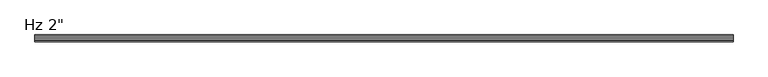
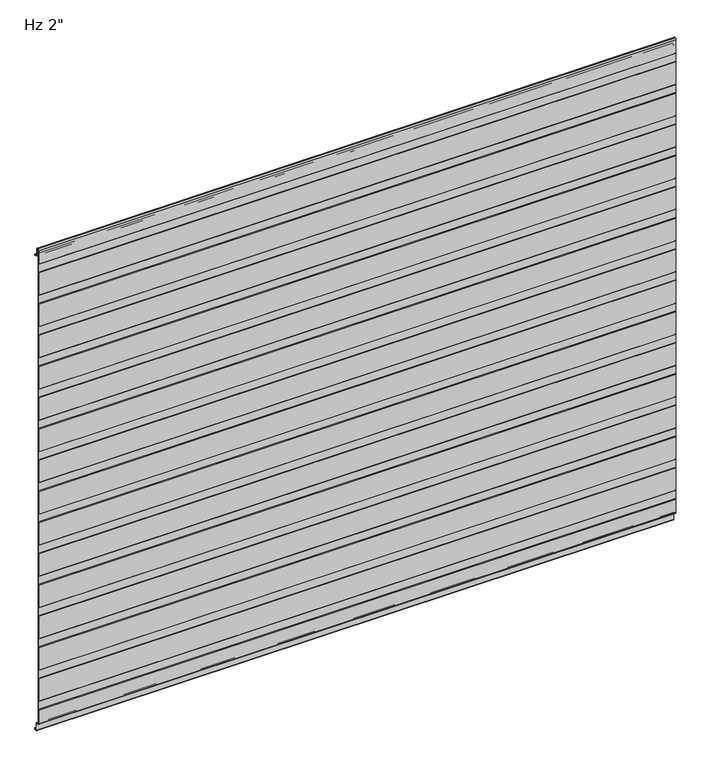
"""IFC4 building model written with IfcOpenShell, lengths in millimetres: plate geometry."""

from ifc_helpers import new_model, si_unit, frame, origin, place, context, project, spatial, polyline, circle_curve, source, transform, mapped, element, save
from ifc_brep_helpers import plane_surface, cylinder_surface, revolved_surface, advanced_brep


def plate_084fd8b3(model_context):
    return source(origin(), model_context, "Body", "AdvancedBrep", [
        advanced_brep(
        [(-730.0, -50.8, 966.9508592), (-730.0, -50.8, 1021.5303137), (-730.0, -49.6088405, 1022.6028385), (-730.0, -49.6088405, 1041.5009546), (-730.0, -50.8, 1042.5734794), (-730.0, -50.8, 1097.152934), (-730.0, -49.6088405, 1098.2254588), (-730.0, -49.6088405, 1117.1235749), (-730.0, -50.7999956, 1118.1960958), (-730.0, -50.7999956, 1150.8100652), (-730.0, -47.8227271, 1153.7873337), (-730.0, -46.7806285, 1153.7873337), (-730.0, -43.80336, 1150.8100652), (-730.0, -43.80336, 1136.6216801), (-730.0, -42.2154834, 1135.0338036), (-730.0, -37.8950653, 1135.0338036), (-730.0, -36.3065979, 1133.3929042), (-730.0, -36.3065979, 1131.0482432), (-730.0, -37.3060718, 1131.0482432), (-730.0, -37.3060718, 1133.4253365), (-730.0, -37.8950653, 1134.0338037), (-730.0, -42.2154834, 1134.0338037), (-730.0, -44.80336, 1136.6216801), (-730.0, -44.80336, 1150.8100652), (-730.0, -46.7806285, 1152.7873337), (-730.0, -47.8227271, 1152.7873337), (-730.0, -49.7999956, 1150.8100652), (-730.0, -49.7999956, 1118.6385351), (-730.0, -48.6088405, 1117.5660142), (-730.0, -48.6088405, 1097.7830195), (-730.0, -49.8, 1096.7104947), (-730.0, -49.8, 1043.0159187), (-730.0, -48.6088405, 1041.9433939), (-730.0, -48.6088405, 1022.1603992), (-730.0, -49.8, 1021.0878744), (-730.0, -49.8, 967.3932985), (-730.0, -48.6088405, 966.3207736), (-730.0, -48.6088405, 946.537779), (-730.0, -49.8, 945.4652541), (-730.0, -49.8, 891.7706782), (-730.0, -48.6088405, 890.6981534), (-730.0, -48.6088405, 870.9151587), (-730.0, -49.8, 869.8426339), (-730.0, -49.8, 816.148058), (-730.0, -48.6088405, 815.0755331), (-730.0, -48.6088405, 795.2925384), (-730.0, -49.8, 794.2200136), (-730.0, -49.8, 740.5254377), (-730.0, -48.6088405, 739.4529129), (-730.0, -48.6088405, 719.6699182), (-730.0, -49.8, 718.5973933), (-730.0, -49.8, 664.9028174), (-730.0, -48.6088405, 663.8302926), (-730.0, -48.6088405, 644.0472979), (-730.0, -49.8, 642.9747731), (-730.0, -49.8, 589.2801972), (-730.0, -48.6088405, 588.2076723), (-730.0, -48.6088405, 568.4246776), (-730.0, -49.8, 567.3521528), (-730.0, -49.8, 513.6575769), (-730.0, -48.6088405, 512.5850521), (-730.0, -48.6088405, 492.8020574), (-730.0, -49.8, 491.7295325), (-730.0, -49.8, 438.0349566), (-730.0, -48.6088405, 436.9624318), (-730.0, -48.6088405, 417.1794371), (-730.0, -49.8, 416.1069123), (-730.0, -49.8, 362.4123364), (-730.0, -48.6088405, 361.3398115), (-730.0, -48.6088405, 341.5568169), (-730.0, -49.8, 340.484292), (-730.0, -49.8, 286.7897161), (-730.0, -48.6088405, 285.7171913), (-730.0, -48.6088405, 265.9341966), (-730.0, -49.8, 264.8616718), (-730.0, -49.8, 211.1670958), (-730.0, -48.6088405, 210.094571), (-730.0, -48.6088405, 190.3115763), (-730.0, -49.8, 189.2390515), (-730.0, -49.8, 135.5444756), (-730.0, -48.6088405, 134.4719507), (-730.0, -48.6088405, 114.6889561), (-730.0, -49.8, 113.6164312), (-730.0, -49.8, 59.9218553), (-730.0, -48.6088405, 58.8493305), (-730.0, -48.6088405, 39.0663358), (-730.0, -49.8, 37.993811), (-730.0, -49.8, 5.82722), (-730.0, -47.8227096, 3.8499526), (-730.0, -45.5308258, 3.8499526), (-730.0, -41.5535573, -0.1273159), (-730.0, -41.5535573, -15.7237419), (-730.0, -40.9656807, -16.3116185), (-730.0, -37.894132, -16.3116185), (-730.0, -37.3062555, -15.7237419), (-730.0, -37.3062555, -13.3687064), (-730.0, -36.3062555, -13.3687064), (-730.0, -36.3062555, -15.7237419), (-730.0, -37.894132, -17.3116185), (-730.0, -40.9656807, -17.3116185), (-730.0, -42.5535573, -15.7237419), (-730.0, -42.5535573, -0.1273159), (-730.0, -45.5308258, 2.8499526), (-730.0, -47.8227096, 2.8499526), (-730.0, -50.7999782, 5.8272193), (-730.0, -50.8, 38.4362503), (-730.0, -49.6088405, 39.5087751), (-730.0, -49.6088405, 58.4068912), (-730.0, -50.8, 59.479416), (-730.0, -50.8, 114.0588705), (-730.0, -49.6088405, 115.1313954), (-730.0, -49.6088405, 134.0295114), (-730.0, -50.8, 135.1020363), (-730.0, -50.8, 189.6814908), (-730.0, -49.6088405, 190.7540156), (-730.0, -49.6088405, 209.6521317), (-730.0, -50.8, 210.7246565), (-730.0, -50.8, 265.3041111), (-730.0, -49.6088405, 266.3766359), (-730.0, -49.6088405, 285.274752), (-730.0, -50.8, 286.3472768), (-730.0, -50.8, 340.9267313), (-730.0, -49.6088405, 341.9992562), (-730.0, -49.6088405, 360.8973722), (-730.0, -50.8, 361.9698971), (-730.0, -50.8, 416.5493516), (-730.0, -49.6088405, 417.6218764), (-730.0, -49.6088405, 436.5199925), (-730.0, -50.8, 437.5925173), (-730.0, -50.8, 492.1719719), (-730.0, -49.6088405, 493.2444967), (-730.0, -49.6088405, 512.1426127), (-730.0, -50.8, 513.2151376), (-730.0, -50.8, 567.7945921), (-730.0, -49.6088405, 568.867117), (-730.0, -49.6088405, 587.765233), (-730.0, -50.8, 588.8377578), (-730.0, -50.8, 643.4172124), (-730.0, -49.6088405, 644.4897372), (-730.0, -49.6088405, 663.3878533), (-730.0, -50.8, 664.4603781), (-730.0, -50.8, 719.0398327), (-730.0, -49.6088405, 720.1123575), (-730.0, -49.6088405, 739.0104735), (-730.0, -50.8, 740.0829984), (-730.0, -50.8, 794.6624529), (-730.0, -49.6088405, 795.7349778), (-730.0, -49.6088405, 814.6330938), (-730.0, -50.8, 815.7056186), (-730.0, -50.8, 870.2850732), (-730.0, -49.6088405, 871.357598), (-730.0, -49.6088405, 890.2557141), (-730.0, -50.8, 891.3282389), (-730.0, -50.8, 945.9076934), (-730.0, -49.6088405, 946.9802183), (-730.0, -49.6088405, 965.8783343), (730.0, -50.8, 966.9508592), (730.0, -49.6088405, 965.8783343), (730.0, -49.6088405, 946.9802183), (730.0, -50.8, 945.9076934), (730.0, -50.8, 891.3282389), (730.0, -49.6088405, 890.2557141), (730.0, -49.6088405, 871.357598), (730.0, -50.8, 870.2850732), (730.0, -50.8, 815.7056186), (730.0, -49.6088405, 814.6330938), (730.0, -49.6088405, 795.7349778), (730.0, -50.8, 794.6624529), (730.0, -50.8, 740.0829984), (730.0, -49.6088405, 739.0104735), (730.0, -49.6088405, 720.1123575), (730.0, -50.8, 719.0398327), (730.0, -50.8, 664.4603781), (730.0, -49.6088405, 663.3878533), (730.0, -49.6088405, 644.4897372), (730.0, -50.8, 643.4172124), (730.0, -50.8, 588.8377578), (730.0, -49.6088405, 587.765233), (730.0, -49.6088405, 568.867117), (730.0, -50.8, 567.7945921), (730.0, -50.8, 513.2151376), (730.0, -49.6088405, 512.1426127), (730.0, -49.6088405, 493.2444967), (730.0, -50.8, 492.1719719), (730.0, -50.8, 437.5925173), (730.0, -49.6088405, 436.5199925), (730.0, -49.6088405, 417.6218764), (730.0, -50.8, 416.5493516), (730.0, -50.8, 361.9698971), (730.0, -49.6088405, 360.8973722), (730.0, -49.6088405, 341.9992562), (730.0, -50.8, 340.9267313), (730.0, -50.8, 286.3472768), (730.0, -49.6088405, 285.274752), (730.0, -49.6088405, 266.3766359), (730.0, -50.8, 265.3041111), (730.0, -50.8, 210.7246565), (730.0, -49.6088405, 209.6521317), (730.0, -49.6088405, 190.7540156), (730.0, -50.8, 189.6814908), (730.0, -50.8, 135.1020363), (730.0, -49.6088405, 134.0295114), (730.0, -49.6088405, 115.1313954), (730.0, -50.8, 114.0588705), (730.0, -50.8, 59.479416), (730.0, -49.6088405, 58.4068912), (730.0, -49.6088405, 39.5087751), (730.0, -50.8, 38.4362503), (730.0, -50.8, 5.8272193), (730.0, -47.8227096, 2.8499526), (730.0, -45.5308258, 2.8499526), (730.0, -42.5535573, -0.1273159), (730.0, -42.5535573, -15.7237419), (730.0, -40.9656807, -17.3116185), (730.0, -37.894132, -17.3116185), (730.0, -36.3062555, -15.7237419), (730.0, -36.3062555, -13.3687064), (730.0, -37.3062555, -13.3687064), (730.0, -37.3062555, -15.7237419), (730.0, -37.894132, -16.3116185), (730.0, -40.9656807, -16.3116185), (730.0, -41.5535573, -15.7237419), (730.0, -41.5535573, -0.1273159), (730.0, -45.5308258, 3.8499526), (730.0, -47.8227096, 3.8499526), (730.0, -49.7999782, 5.82722), (730.0, -49.8, 37.993811), (730.0, -48.6088405, 39.0663358), (730.0, -48.6088405, 58.8493305), (730.0, -49.8, 59.9218553), (730.0, -49.8, 113.6164312), (730.0, -48.6088405, 114.6889561), (730.0, -48.6088405, 134.4719507), (730.0, -49.8, 135.5444756), (730.0, -49.8, 189.2390515), (730.0, -48.6088405, 190.3115763), (730.0, -48.6088405, 210.094571), (730.0, -49.8, 211.1670958), (730.0, -49.8, 264.8616718), (730.0, -48.6088405, 265.9341966), (730.0, -48.6088405, 285.7171913), (730.0, -49.8, 286.7897161), (730.0, -49.8, 340.484292), (730.0, -48.6088405, 341.5568169), (730.0, -48.6088405, 361.3398115), (730.0, -49.8, 362.4123364), (730.0, -49.8, 416.1069123), (730.0, -48.6088405, 417.1794371), (730.0, -48.6088405, 436.9624318), (730.0, -49.8, 438.0349566), (730.0, -49.8, 491.7295325), (730.0, -48.6088405, 492.8020574), (730.0, -48.6088405, 512.5850521), (730.0, -49.8, 513.6575769), (730.0, -49.8, 567.3521528), (730.0, -48.6088405, 568.4246776), (730.0, -48.6088405, 588.2076723), (730.0, -49.8, 589.2801972), (730.0, -49.8, 642.9747731), (730.0, -48.6088405, 644.0472979), (730.0, -48.6088405, 663.8302926), (730.0, -49.8, 664.9028174), (730.0, -49.8, 718.5973933), (730.0, -48.6088405, 719.6699182), (730.0, -48.6088405, 739.4529129), (730.0, -49.8, 740.5254377), (730.0, -49.8, 794.2200136), (730.0, -48.6088405, 795.2925384), (730.0, -48.6088405, 815.0755331), (730.0, -49.8, 816.148058), (730.0, -49.8, 869.8426339), (730.0, -48.6088405, 870.9151587), (730.0, -48.6088405, 890.6981534), (730.0, -49.8, 891.7706782), (730.0, -49.8, 945.4652541), (730.0, -48.6088405, 946.537779), (730.0, -48.6088405, 966.3207736), (730.0, -49.8, 967.3932985), (730.0, -49.8, 1021.0878744), (730.0, -48.6088405, 1022.1603992), (730.0, -48.6088405, 1041.9433939), (730.0, -49.8, 1043.0159187), (730.0, -49.8, 1096.7104947), (730.0, -48.6088405, 1097.7830195), (730.0, -48.6088405, 1117.5660142), (730.0, -49.7999956, 1118.6385351), (730.0, -49.7999956, 1150.8100652), (730.0, -47.8227271, 1152.7873337), (730.0, -46.7806285, 1152.7873337), (730.0, -44.80336, 1150.8100652), (730.0, -44.80336, 1136.6216801), (730.0, -42.2154834, 1134.0338036), (730.0, -37.8950653, 1134.0338037), (730.0, -37.3060718, 1133.4253365), (730.0, -37.3060718, 1131.0482432), (730.0, -36.3065979, 1131.0482432), (730.0, -36.3065979, 1133.3929042), (730.0, -37.8950653, 1135.0338037), (730.0, -42.2154834, 1135.0338036), (730.0, -43.80336, 1136.6216801), (730.0, -43.80336, 1150.8100652), (730.0, -46.7806285, 1153.7873337), (730.0, -47.8227271, 1153.7873337), (730.0, -50.7999956, 1150.8100652), (730.0, -50.7999956, 1118.1960958), (730.0, -49.6088405, 1117.1235749), (730.0, -49.6088405, 1098.2254588), (730.0, -50.8, 1097.152934), (730.0, -50.8, 1042.5734794), (730.0, -49.6088405, 1041.5009546), (730.0, -49.6088405, 1022.6028385), (730.0, -50.8, 1021.5303137)],
        [
            (0, 1),
            (1, 2),
            (2, 3),
            (3, 4),
            (4, 5),
            (5, 6),
            (6, 7),
            (7, 8),
            (8, 9),
            (9, 10, circle_curve(frame((-730.0, -47.8227271, 1150.8100652), z_axis=(-1.0, 0.0, 0.0), x_axis=(0.0, 0.0, -1.0)), 2.9772685)),
            (10, 11),
            (11, 12, circle_curve(frame((-730.0, -46.7806285, 1150.8100652), z_axis=(-1.0, 0.0, 0.0), x_axis=(0.0, 0.0, -1.0)), 2.9772685)),
            (12, 13),
            (13, 14, circle_curve(frame((-730.0, -42.2154834, 1136.6216801), z_axis=(1.0, 0.0, 0.0), x_axis=(0.0, 0.0, -1.0)), 1.5878765)),
            (14, 15),
            (15, 16, circle_curve(frame((-730.0, -37.8950653, 1133.4444985), z_axis=(-1.0, 0.0, 0.0), x_axis=(0.0, 0.0, -1.0)), 1.5893052)),
            (16, 17),
            (17, 18),
            (18, 19),
            (19, 20, circle_curve(frame((-730.0, -37.8950653, 1133.4444985), z_axis=(1.0, 0.0, 0.0), x_axis=(0.0, 0.0, -1.0)), 0.5893052)),
            (20, 21),
            (21, 22, circle_curve(frame((-730.0, -42.2154834, 1136.6216801), z_axis=(-1.0, 0.0, 0.0), x_axis=(0.0, 0.0, -1.0)), 2.5878765)),
            (22, 23),
            (23, 24, circle_curve(frame((-730.0, -46.7806285, 1150.8100652), z_axis=(1.0, 0.0, 0.0), x_axis=(0.0, 0.0, -1.0)), 1.9772685)),
            (24, 25),
            (25, 26, circle_curve(frame((-730.0, -47.8227271, 1150.8100652), z_axis=(1.0, 0.0, 0.0), x_axis=(0.0, 0.0, -1.0)), 1.9772685)),
            (26, 27),
            (27, 28),
            (28, 29),
            (29, 30),
            (30, 31),
            (31, 32),
            (32, 33),
            (33, 34),
            (34, 35),
            (35, 36),
            (36, 37),
            (37, 38),
            (38, 39),
            (39, 40),
            (40, 41),
            (41, 42),
            (42, 43),
            (43, 44),
            (44, 45),
            (45, 46),
            (46, 47),
            (47, 48),
            (48, 49),
            (49, 50),
            (50, 51),
            (51, 52),
            (52, 53),
            (53, 54),
            (54, 55),
            (55, 56),
            (56, 57),
            (57, 58),
            (58, 59),
            (59, 60),
            (60, 61),
            (61, 62),
            (62, 63),
            (63, 64),
            (64, 65),
            (65, 66),
            (66, 67),
            (67, 68),
            (68, 69),
            (69, 70),
            (70, 71),
            (71, 72),
            (72, 73),
            (73, 74),
            (74, 75),
            (75, 76),
            (76, 77),
            (77, 78),
            (78, 79),
            (79, 80),
            (80, 81),
            (81, 82),
            (82, 83),
            (83, 84),
            (84, 85),
            (85, 86),
            (86, 87),
            (87, 88, circle_curve(frame((-730.0, -47.8227096, 5.8272212), z_axis=(1.0, 0.0, 0.0), x_axis=(0.0, 0.0, -1.0)), 1.9772685)),
            (88, 89),
            (89, 90, circle_curve(frame((-730.0, -45.5308258, -0.1273159), z_axis=(-1.0, 0.0, 0.0), x_axis=(0.0, 0.0, -1.0)), 3.9772685)),
            (90, 91),
            (91, 92, circle_curve(frame((-730.0, -40.9656807, -15.7237419), z_axis=(1.0, 0.0, 0.0), x_axis=(0.0, 0.0, -1.0)), 0.5878765)),
            (92, 93),
            (93, 94, circle_curve(frame((-730.0, -37.894132, -15.7237419), z_axis=(1.0, 0.0, 0.0), x_axis=(0.0, 0.0, -1.0)), 0.5878765)),
            (94, 95),
            (95, 96),
            (96, 97),
            (97, 98, circle_curve(frame((-730.0, -37.894132, -15.7237419), z_axis=(-1.0, 0.0, 0.0), x_axis=(0.0, 0.0, -1.0)), 1.5878765)),
            (98, 99),
            (99, 100, circle_curve(frame((-730.0, -40.9656807, -15.7237419), z_axis=(-1.0, 0.0, 0.0), x_axis=(0.0, 0.0, -1.0)), 1.5878765)),
            (100, 101),
            (101, 102, circle_curve(frame((-730.0, -45.5308258, -0.1273159), z_axis=(1.0, 0.0, 0.0), x_axis=(0.0, 0.0, -1.0)), 2.9772685)),
            (102, 103),
            (103, 104, circle_curve(frame((-730.0, -47.8227096, 5.8272211), z_axis=(-1.0, 0.0, 0.0), x_axis=(0.0, 0.0, -1.0)), 2.9772685)),
            (104, 105),
            (105, 106),
            (106, 107),
            (107, 108),
            (108, 109),
            (109, 110),
            (110, 111),
            (111, 112),
            (112, 113),
            (113, 114),
            (114, 115),
            (115, 116),
            (116, 117),
            (117, 118),
            (118, 119),
            (119, 120),
            (120, 121),
            (121, 122),
            (122, 123),
            (123, 124),
            (124, 125),
            (125, 126),
            (126, 127),
            (127, 128),
            (128, 129),
            (129, 130),
            (130, 131),
            (131, 132),
            (132, 133),
            (133, 134),
            (134, 135),
            (135, 136),
            (136, 137),
            (137, 138),
            (138, 139),
            (139, 140),
            (140, 141),
            (141, 142),
            (142, 143),
            (143, 144),
            (144, 145),
            (145, 146),
            (146, 147),
            (147, 148),
            (148, 149),
            (149, 150),
            (150, 151),
            (151, 152),
            (152, 153),
            (153, 154),
            (154, 155),
            (155, 0),
            (156, 157),
            (157, 158),
            (158, 159),
            (159, 160),
            (160, 161),
            (161, 162),
            (162, 163),
            (163, 164),
            (164, 165),
            (165, 166),
            (166, 167),
            (167, 168),
            (168, 169),
            (169, 170),
            (170, 171),
            (171, 172),
            (172, 173),
            (173, 174),
            (174, 175),
            (175, 176),
            (176, 177),
            (177, 178),
            (178, 179),
            (179, 180),
            (180, 181),
            (181, 182),
            (182, 183),
            (183, 184),
            (184, 185),
            (185, 186),
            (186, 187),
            (187, 188),
            (188, 189),
            (189, 190),
            (190, 191),
            (191, 192),
            (192, 193),
            (193, 194),
            (194, 195),
            (195, 196),
            (196, 197),
            (197, 198),
            (198, 199),
            (199, 200),
            (200, 201),
            (201, 202),
            (202, 203),
            (203, 204),
            (204, 205),
            (205, 206),
            (206, 207),
            (207, 208),
            (208, 209, circle_curve(frame((730.0, -47.8227096, 5.8272211), z_axis=(1.0, 0.0, 0.0), x_axis=(0.0, 0.0, -1.0)), 2.9772685)),
            (209, 210),
            (210, 211, circle_curve(frame((730.0, -45.5308258, -0.1273159), z_axis=(-1.0, 0.0, 0.0), x_axis=(0.0, 0.0, -1.0)), 2.9772685)),
            (211, 212),
            (212, 213, circle_curve(frame((730.0, -40.9656807, -15.7237419), z_axis=(1.0, 0.0, 0.0), x_axis=(0.0, 0.0, -1.0)), 1.5878765)),
            (213, 214),
            (214, 215, circle_curve(frame((730.0, -37.894132, -15.7237419), z_axis=(1.0, 0.0, 0.0), x_axis=(0.0, 0.0, -1.0)), 1.5878765)),
            (215, 216),
            (216, 217),
            (217, 218),
            (218, 219, circle_curve(frame((730.0, -37.894132, -15.7237419), z_axis=(-1.0, 0.0, 0.0), x_axis=(0.0, 0.0, -1.0)), 0.5878765)),
            (219, 220),
            (220, 221, circle_curve(frame((730.0, -40.9656807, -15.7237419), z_axis=(-1.0, 0.0, 0.0), x_axis=(0.0, 0.0, -1.0)), 0.5878765)),
            (221, 222),
            (222, 223, circle_curve(frame((730.0, -45.5308258, -0.1273159), z_axis=(1.0, 0.0, 0.0), x_axis=(0.0, 0.0, -1.0)), 3.9772685)),
            (223, 224),
            (224, 225, circle_curve(frame((730.0, -47.8227096, 5.8272212), z_axis=(-1.0, 0.0, 0.0), x_axis=(0.0, 0.0, -1.0)), 1.9772685)),
            (225, 226),
            (226, 227),
            (227, 228),
            (228, 229),
            (229, 230),
            (230, 231),
            (231, 232),
            (232, 233),
            (233, 234),
            (234, 235),
            (235, 236),
            (236, 237),
            (237, 238),
            (238, 239),
            (239, 240),
            (240, 241),
            (241, 242),
            (242, 243),
            (243, 244),
            (244, 245),
            (245, 246),
            (246, 247),
            (247, 248),
            (248, 249),
            (249, 250),
            (250, 251),
            (251, 252),
            (252, 253),
            (253, 254),
            (254, 255),
            (255, 256),
            (256, 257),
            (257, 258),
            (258, 259),
            (259, 260),
            (260, 261),
            (261, 262),
            (262, 263),
            (263, 264),
            (264, 265),
            (265, 266),
            (266, 267),
            (267, 268),
            (268, 269),
            (269, 270),
            (270, 271),
            (271, 272),
            (272, 273),
            (273, 274),
            (274, 275),
            (275, 276),
            (276, 277),
            (277, 278),
            (278, 279),
            (279, 280),
            (280, 281),
            (281, 282),
            (282, 283),
            (283, 284),
            (284, 285),
            (285, 286),
            (286, 287, circle_curve(frame((730.0, -47.8227271, 1150.8100652), z_axis=(-1.0, 0.0, 0.0), x_axis=(0.0, 0.0, -1.0)), 1.9772685)),
            (287, 288),
            (288, 289, circle_curve(frame((730.0, -46.7806285, 1150.8100652), z_axis=(-1.0, 0.0, 0.0), x_axis=(0.0, 0.0, -1.0)), 1.9772685)),
            (289, 290),
            (290, 291, circle_curve(frame((730.0, -42.2154834, 1136.6216801), z_axis=(1.0, 0.0, 0.0), x_axis=(0.0, 0.0, -1.0)), 2.5878765)),
            (291, 292),
            (292, 293, circle_curve(frame((730.0, -37.8950653, 1133.4444985), z_axis=(-1.0, 0.0, 0.0), x_axis=(0.0, 0.0, -1.0)), 0.5893052)),
            (293, 294),
            (294, 295),
            (295, 296),
            (296, 297, circle_curve(frame((730.0, -37.8950653, 1133.4444985), z_axis=(1.0, 0.0, 0.0), x_axis=(0.0, 0.0, -1.0)), 1.5893052)),
            (297, 298),
            (298, 299, circle_curve(frame((730.0, -42.2154834, 1136.6216801), z_axis=(-1.0, 0.0, 0.0), x_axis=(0.0, 0.0, -1.0)), 1.5878765)),
            (299, 300),
            (300, 301, circle_curve(frame((730.0, -46.7806285, 1150.8100652), z_axis=(1.0, 0.0, 0.0), x_axis=(0.0, 0.0, -1.0)), 2.9772685)),
            (301, 302),
            (302, 303, circle_curve(frame((730.0, -47.8227271, 1150.8100652), z_axis=(1.0, 0.0, 0.0), x_axis=(0.0, 0.0, -1.0)), 2.9772685)),
            (303, 304),
            (304, 305),
            (305, 306),
            (306, 307),
            (307, 308),
            (308, 309),
            (309, 310),
            (310, 311),
            (311, 156),
            (155, 157),
            (156, 0),
            (154, 158),
            (153, 159),
            (152, 160),
            (151, 161),
            (150, 162),
            (149, 163),
            (148, 164),
            (147, 165),
            (146, 166),
            (145, 167),
            (144, 168),
            (143, 169),
            (142, 170),
            (141, 171),
            (140, 172),
            (139, 173),
            (138, 174),
            (137, 175),
            (136, 176),
            (135, 177),
            (134, 178),
            (133, 179),
            (132, 180),
            (131, 181),
            (130, 182),
            (129, 183),
            (128, 184),
            (127, 185),
            (126, 186),
            (125, 187),
            (124, 188),
            (123, 189),
            (122, 190),
            (121, 191),
            (120, 192),
            (119, 193),
            (118, 194),
            (117, 195),
            (116, 196),
            (115, 197),
            (114, 198),
            (113, 199),
            (112, 200),
            (111, 201),
            (110, 202),
            (109, 203),
            (108, 204),
            (107, 205),
            (106, 206),
            (105, 207),
            (104, 208),
            (103, 209),
            (102, 210),
            (101, 211),
            (100, 212),
            (99, 213),
            (98, 214),
            (97, 215),
            (96, 216),
            (95, 217),
            (94, 218),
            (93, 219),
            (92, 220),
            (91, 221),
            (90, 222),
            (89, 223),
            (88, 224),
            (87, 225),
            (86, 226),
            (85, 227),
            (84, 228),
            (83, 229),
            (82, 230),
            (81, 231),
            (80, 232),
            (79, 233),
            (78, 234),
            (77, 235),
            (76, 236),
            (75, 237),
            (74, 238),
            (73, 239),
            (72, 240),
            (71, 241),
            (70, 242),
            (69, 243),
            (68, 244),
            (67, 245),
            (66, 246),
            (65, 247),
            (64, 248),
            (63, 249),
            (62, 250),
            (61, 251),
            (60, 252),
            (59, 253),
            (58, 254),
            (57, 255),
            (56, 256),
            (55, 257),
            (54, 258),
            (53, 259),
            (52, 260),
            (51, 261),
            (50, 262),
            (49, 263),
            (48, 264),
            (47, 265),
            (46, 266),
            (45, 267),
            (44, 268),
            (43, 269),
            (42, 270),
            (41, 271),
            (40, 272),
            (39, 273),
            (38, 274),
            (37, 275),
            (36, 276),
            (35, 277),
            (34, 278),
            (33, 279),
            (32, 280),
            (31, 281),
            (30, 282),
            (29, 283),
            (28, 284),
            (27, 285),
            (26, 286),
            (25, 287),
            (24, 288),
            (23, 289),
            (22, 290),
            (21, 291),
            (20, 292),
            (19, 293),
            (18, 294),
            (17, 295),
            (16, 296),
            (15, 297),
            (14, 298),
            (13, 299),
            (12, 300),
            (11, 301),
            (10, 302),
            (9, 303),
            (8, 304),
            (7, 305),
            (6, 306),
            (5, 307),
            (4, 308),
            (3, 309),
            (2, 310),
            (1, 311),
        ],
        [
            plane_surface(frame((-730.0, -50.8, 576.2625), z_axis=(-1.0, 0.0, 0.0), x_axis=(0.0, -1.0, 0.0))),
            plane_surface(frame((730.0, -50.8, 576.2625), z_axis=(1.0, 0.0, 0.0), x_axis=(0.0, -1.0, 0.0))),
            plane_surface(frame((-730.0, -50.8, 966.9508592), z_axis=(0.0, -0.6691306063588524, -0.7431448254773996), x_axis=(1.0, 0.0, 0.0))),
            plane_surface(frame((-730.0, -49.6088405, 965.8783343), z_axis=(0.0, -1.0, 0.0), x_axis=(1.0, 0.0, 0.0))),
            plane_surface(frame((-730.0, -49.6088405, 946.9802183), z_axis=(0.0, -0.6691306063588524, 0.7431448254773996), x_axis=(1.0, 0.0, 0.0))),
            plane_surface(frame((-730.0, -50.8, 945.9076934), z_axis=(0.0, -1.0, 0.0), x_axis=(1.0, 0.0, 0.0))),
            plane_surface(frame((-730.0, -50.8, 891.3282389), z_axis=(0.0, -0.6691306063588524, -0.7431448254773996), x_axis=(1.0, 0.0, 0.0))),
            plane_surface(frame((-730.0, -49.6088405, 890.2557141), z_axis=(0.0, -1.0, 0.0), x_axis=(1.0, 0.0, 0.0))),
            plane_surface(frame((-730.0, -49.6088405, 871.357598), z_axis=(0.0, -0.6691306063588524, 0.7431448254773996), x_axis=(1.0, 0.0, 0.0))),
            plane_surface(frame((-730.0, -50.8, 870.2850732), z_axis=(0.0, -1.0, 0.0), x_axis=(1.0, 0.0, 0.0))),
            plane_surface(frame((-730.0, -50.8, 815.7056186), z_axis=(0.0, -0.6691306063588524, -0.7431448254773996), x_axis=(1.0, 0.0, 0.0))),
            plane_surface(frame((-730.0, -49.6088405, 814.6330938), z_axis=(0.0, -1.0, 0.0), x_axis=(1.0, 0.0, 0.0))),
            plane_surface(frame((-730.0, -49.6088405, 795.7349778), z_axis=(0.0, -0.6691306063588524, 0.7431448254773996), x_axis=(1.0, 0.0, 0.0))),
            plane_surface(frame((-730.0, -50.8, 794.6624529), z_axis=(0.0, -1.0, 0.0), x_axis=(1.0, 0.0, 0.0))),
            plane_surface(frame((-730.0, -50.8, 740.0829984), z_axis=(0.0, -0.6691306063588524, -0.7431448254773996), x_axis=(1.0, 0.0, 0.0))),
            plane_surface(frame((-730.0, -49.6088405, 739.0104735), z_axis=(0.0, -1.0, 0.0), x_axis=(1.0, 0.0, 0.0))),
            plane_surface(frame((-730.0, -49.6088405, 720.1123575), z_axis=(0.0, -0.6691306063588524, 0.7431448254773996), x_axis=(1.0, 0.0, 0.0))),
            plane_surface(frame((-730.0, -50.8, 719.0398327), z_axis=(0.0, -1.0, 0.0), x_axis=(1.0, 0.0, 0.0))),
            plane_surface(frame((-730.0, -50.8, 664.4603781), z_axis=(0.0, -0.6691306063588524, -0.7431448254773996), x_axis=(1.0, 0.0, 0.0))),
            plane_surface(frame((-730.0, -49.6088405, 663.3878533), z_axis=(0.0, -1.0, 0.0), x_axis=(1.0, 0.0, 0.0))),
            plane_surface(frame((-730.0, -49.6088405, 644.4897372), z_axis=(0.0, -0.6691306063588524, 0.7431448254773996), x_axis=(1.0, 0.0, 0.0))),
            plane_surface(frame((-730.0, -50.8, 643.4172124), z_axis=(0.0, -1.0, 0.0), x_axis=(1.0, 0.0, 0.0))),
            plane_surface(frame((-730.0, -50.8, 588.8377578), z_axis=(0.0, -0.6691306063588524, -0.7431448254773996), x_axis=(1.0, 0.0, 0.0))),
            plane_surface(frame((-730.0, -49.6088405, 587.765233), z_axis=(0.0, -1.0, 0.0), x_axis=(1.0, 0.0, 0.0))),
            plane_surface(frame((-730.0, -49.6088405, 568.867117), z_axis=(0.0, -0.6691306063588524, 0.7431448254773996), x_axis=(1.0, 0.0, 0.0))),
            plane_surface(frame((-730.0, -50.8, 567.7945921), z_axis=(0.0, -1.0, 0.0), x_axis=(1.0, 0.0, 0.0))),
            plane_surface(frame((-730.0, -50.8, 513.2151376), z_axis=(0.0, -0.6691306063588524, -0.7431448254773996), x_axis=(1.0, 0.0, 0.0))),
            plane_surface(frame((-730.0, -49.6088405, 512.1426127), z_axis=(0.0, -1.0, 0.0), x_axis=(1.0, 0.0, 0.0))),
            plane_surface(frame((-730.0, -49.6088405, 493.2444967), z_axis=(0.0, -0.6691306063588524, 0.7431448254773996), x_axis=(1.0, 0.0, 0.0))),
            plane_surface(frame((-730.0, -50.8, 492.1719719), z_axis=(0.0, -1.0, 0.0), x_axis=(1.0, 0.0, 0.0))),
            plane_surface(frame((-730.0, -50.8, 437.5925173), z_axis=(0.0, -0.6691306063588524, -0.7431448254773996), x_axis=(1.0, 0.0, 0.0))),
            plane_surface(frame((-730.0, -49.6088405, 436.5199925), z_axis=(0.0, -1.0, 0.0), x_axis=(1.0, 0.0, 0.0))),
            plane_surface(frame((-730.0, -49.6088405, 417.6218764), z_axis=(0.0, -0.6691306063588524, 0.7431448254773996), x_axis=(1.0, 0.0, 0.0))),
            plane_surface(frame((-730.0, -50.8, 416.5493516), z_axis=(0.0, -1.0, 0.0), x_axis=(1.0, 0.0, 0.0))),
            plane_surface(frame((-730.0, -50.8, 361.9698971), z_axis=(0.0, -0.6691306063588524, -0.7431448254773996), x_axis=(1.0, 0.0, 0.0))),
            plane_surface(frame((-730.0, -49.6088405, 360.8973722), z_axis=(0.0, -1.0, 0.0), x_axis=(1.0, 0.0, 0.0))),
            plane_surface(frame((-730.0, -49.6088405, 341.9992562), z_axis=(0.0, -0.6691306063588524, 0.7431448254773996), x_axis=(1.0, 0.0, 0.0))),
            plane_surface(frame((-730.0, -50.8, 340.9267313), z_axis=(0.0, -1.0, 0.0), x_axis=(1.0, 0.0, 0.0))),
            plane_surface(frame((-730.0, -50.8, 286.3472768), z_axis=(0.0, -0.6691306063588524, -0.7431448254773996), x_axis=(1.0, 0.0, 0.0))),
            plane_surface(frame((-730.0, -49.6088405, 285.274752), z_axis=(0.0, -1.0, 0.0), x_axis=(1.0, 0.0, 0.0))),
            plane_surface(frame((-730.0, -49.6088405, 266.3766359), z_axis=(0.0, -0.6691306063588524, 0.7431448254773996), x_axis=(1.0, 0.0, 0.0))),
            plane_surface(frame((-730.0, -50.8, 265.3041111), z_axis=(0.0, -1.0, 0.0), x_axis=(1.0, 0.0, 0.0))),
            plane_surface(frame((-730.0, -50.8, 210.7246565), z_axis=(0.0, -0.6691306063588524, -0.7431448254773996), x_axis=(1.0, 0.0, 0.0))),
            plane_surface(frame((-730.0, -49.6088405, 209.6521317), z_axis=(0.0, -1.0, 0.0), x_axis=(1.0, 0.0, 0.0))),
            plane_surface(frame((-730.0, -49.6088405, 190.7540156), z_axis=(0.0, -0.6691306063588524, 0.7431448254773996), x_axis=(1.0, 0.0, 0.0))),
            plane_surface(frame((-730.0, -50.8, 189.6814908), z_axis=(0.0, -1.0, 0.0), x_axis=(1.0, 0.0, 0.0))),
            plane_surface(frame((-730.0, -50.8, 135.1020363), z_axis=(0.0, -0.6691306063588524, -0.7431448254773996), x_axis=(1.0, 0.0, 0.0))),
            plane_surface(frame((-730.0, -49.6088405, 134.0295114), z_axis=(0.0, -1.0, 0.0), x_axis=(1.0, 0.0, 0.0))),
            plane_surface(frame((-730.0, -49.6088405, 115.1313954), z_axis=(0.0, -0.6691306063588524, 0.7431448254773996), x_axis=(1.0, 0.0, 0.0))),
            plane_surface(frame((-730.0, -50.8, 114.0588705), z_axis=(0.0, -1.0, 0.0), x_axis=(1.0, 0.0, 0.0))),
            plane_surface(frame((-730.0, -50.8, 59.479416), z_axis=(0.0, -0.6691306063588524, -0.7431448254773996), x_axis=(1.0, 0.0, 0.0))),
            plane_surface(frame((-730.0, -49.6088405, 58.4068912), z_axis=(0.0, -1.0, 0.0), x_axis=(1.0, 0.0, 0.0))),
            plane_surface(frame((-730.0, -49.6088405, 39.5087751), z_axis=(0.0, -0.6691306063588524, 0.7431448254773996), x_axis=(1.0, 0.0, 0.0))),
            plane_surface(frame((-730.0, -50.8, 38.4362503), z_axis=(0.0, -1.0, 0.0), x_axis=(1.0, 0.0, 0.0))),
            cylinder_surface(frame((-730.0, -47.8227096, 5.8272211), z_axis=(-1.0, 0.0, 0.0), x_axis=(0.0, 0.0, -1.0)), 2.9772685),
            plane_surface(frame((-730.0, -47.8227096, 2.8499526), z_axis=(0.0, 0.0, -1.0), x_axis=(1.0, 0.0, 0.0))),
            revolved_surface(polyline([(730.0, -45.5308258, -3.1045844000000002), (-730.0, -45.5308258, -3.1045844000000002)]), (-730.0, -45.5308258, -0.1273159), (1.0, 0.0, 0.0)),
            plane_surface(frame((-730.0, -42.5535573, -0.1273159), z_axis=(0.0, -1.0, 0.0), x_axis=(1.0, 0.0, 0.0))),
            cylinder_surface(frame((-730.0, -40.9656807, -15.7237419), z_axis=(-1.0, 0.0, 0.0), x_axis=(0.0, 0.0, -1.0)), 1.5878765),
            plane_surface(frame((-730.0, -40.9656807, -17.3116185), z_axis=(0.0, 0.0, -1.0), x_axis=(1.0, 0.0, 0.0))),
            cylinder_surface(frame((-730.0, -37.894132, -15.7237419), z_axis=(-1.0, 0.0, 0.0), x_axis=(0.0, 0.0, -1.0)), 1.5878765),
            plane_surface(frame((-730.0, -36.3062555, -15.7237419), z_axis=(0.0, 1.0, 0.0), x_axis=(1.0, 0.0, 0.0))),
            plane_surface(frame((-730.0, -36.3062555, -13.3687064), z_axis=(0.0, 0.0, 1.0), x_axis=(1.0, 0.0, 0.0))),
            plane_surface(frame((-730.0, -37.3062555, -13.3687064), z_axis=(0.0, -1.0, 0.0), x_axis=(1.0, 0.0, 0.0))),
            revolved_surface(polyline([(730.0, -37.894132, -16.3116184), (-730.0, -37.894132, -16.3116184)]), (-730.0, -37.894132, -15.7237419), (1.0, 0.0, 0.0)),
            plane_surface(frame((-730.0, -37.894132, -16.3116185), z_axis=(0.0, 0.0, 1.0), x_axis=(1.0, 0.0, 0.0))),
            revolved_surface(polyline([(730.0, -40.9656807, -16.3116184), (-730.0, -40.9656807, -16.3116184)]), (-730.0, -40.9656807, -15.7237419), (1.0, 0.0, 0.0)),
            plane_surface(frame((-730.0, -41.5535573, -15.7237419), z_axis=(0.0, 1.0, 0.0), x_axis=(1.0, 0.0, 0.0))),
            cylinder_surface(frame((-730.0, -45.5308258, -0.1273159), z_axis=(-1.0, 0.0, 0.0), x_axis=(0.0, 0.0, -1.0)), 3.9772685),
            plane_surface(frame((-730.0, -45.5308258, 3.8499526), z_axis=(0.0, 0.0, 1.0), x_axis=(1.0, 0.0, 0.0))),
            revolved_surface(polyline([(730.0, -47.8227096, 3.8499527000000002), (-730.0, -47.8227096, 3.8499527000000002)]), (-730.0, -47.8227096, 5.8272212), (1.0, 0.0, 0.0)),
            plane_surface(frame((-730.0, -49.8, 5.82722), z_axis=(0.0, 1.0, 0.0), x_axis=(1.0, 0.0, 0.0))),
            plane_surface(frame((-730.0, -49.8, 37.993811), z_axis=(0.0, 0.6691306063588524, -0.7431448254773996), x_axis=(1.0, 0.0, 0.0))),
            plane_surface(frame((-730.0, -48.6088405, 39.0663358), z_axis=(0.0, 1.0, 0.0), x_axis=(1.0, 0.0, 0.0))),
            plane_surface(frame((-730.0, -48.6088405, 58.8493305), z_axis=(0.0, 0.6691306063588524, 0.7431448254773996), x_axis=(1.0, 0.0, 0.0))),
            plane_surface(frame((-730.0, -49.8, 59.9218553), z_axis=(0.0, 1.0, 0.0), x_axis=(1.0, 0.0, 0.0))),
            plane_surface(frame((-730.0, -49.8, 113.6164312), z_axis=(0.0, 0.6691306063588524, -0.7431448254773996), x_axis=(1.0, 0.0, 0.0))),
            plane_surface(frame((-730.0, -48.6088405, 114.6889561), z_axis=(0.0, 1.0, 0.0), x_axis=(1.0, 0.0, 0.0))),
            plane_surface(frame((-730.0, -48.6088405, 134.4719507), z_axis=(0.0, 0.6691306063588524, 0.7431448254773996), x_axis=(1.0, 0.0, 0.0))),
            plane_surface(frame((-730.0, -49.8, 135.5444756), z_axis=(0.0, 1.0, 0.0), x_axis=(1.0, 0.0, 0.0))),
            plane_surface(frame((-730.0, -49.8, 189.2390515), z_axis=(0.0, 0.6691306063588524, -0.7431448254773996), x_axis=(1.0, 0.0, 0.0))),
            plane_surface(frame((-730.0, -48.6088405, 190.3115763), z_axis=(0.0, 1.0, 0.0), x_axis=(1.0, 0.0, 0.0))),
            plane_surface(frame((-730.0, -48.6088405, 210.094571), z_axis=(0.0, 0.6691306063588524, 0.7431448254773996), x_axis=(1.0, 0.0, 0.0))),
            plane_surface(frame((-730.0, -49.8, 211.1670958), z_axis=(0.0, 1.0, 0.0), x_axis=(1.0, 0.0, 0.0))),
            plane_surface(frame((-730.0, -49.8, 264.8616718), z_axis=(0.0, 0.6691306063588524, -0.7431448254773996), x_axis=(1.0, 0.0, 0.0))),
            plane_surface(frame((-730.0, -48.6088405, 265.9341966), z_axis=(0.0, 1.0, 0.0), x_axis=(1.0, 0.0, 0.0))),
            plane_surface(frame((-730.0, -48.6088405, 285.7171913), z_axis=(0.0, 0.6691306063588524, 0.7431448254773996), x_axis=(1.0, 0.0, 0.0))),
            plane_surface(frame((-730.0, -49.8, 286.7897161), z_axis=(0.0, 1.0, 0.0), x_axis=(1.0, 0.0, 0.0))),
            plane_surface(frame((-730.0, -49.8, 340.484292), z_axis=(0.0, 0.6691306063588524, -0.7431448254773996), x_axis=(1.0, 0.0, 0.0))),
            plane_surface(frame((-730.0, -48.6088405, 341.5568169), z_axis=(0.0, 1.0, 0.0), x_axis=(1.0, 0.0, 0.0))),
            plane_surface(frame((-730.0, -48.6088405, 361.3398115), z_axis=(0.0, 0.6691306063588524, 0.7431448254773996), x_axis=(1.0, 0.0, 0.0))),
            plane_surface(frame((-730.0, -49.8, 362.4123364), z_axis=(0.0, 1.0, 0.0), x_axis=(1.0, 0.0, 0.0))),
            plane_surface(frame((-730.0, -49.8, 416.1069123), z_axis=(0.0, 0.6691306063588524, -0.7431448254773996), x_axis=(1.0, 0.0, 0.0))),
            plane_surface(frame((-730.0, -48.6088405, 417.1794371), z_axis=(0.0, 1.0, 0.0), x_axis=(1.0, 0.0, 0.0))),
            plane_surface(frame((-730.0, -48.6088405, 436.9624318), z_axis=(0.0, 0.6691306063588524, 0.7431448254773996), x_axis=(1.0, 0.0, 0.0))),
            plane_surface(frame((-730.0, -49.8, 438.0349566), z_axis=(0.0, 1.0, 0.0), x_axis=(1.0, 0.0, 0.0))),
            plane_surface(frame((-730.0, -49.8, 491.7295325), z_axis=(0.0, 0.6691306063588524, -0.7431448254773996), x_axis=(1.0, 0.0, 0.0))),
            plane_surface(frame((-730.0, -48.6088405, 492.8020574), z_axis=(0.0, 1.0, 0.0), x_axis=(1.0, 0.0, 0.0))),
            plane_surface(frame((-730.0, -48.6088405, 512.5850521), z_axis=(0.0, 0.6691306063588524, 0.7431448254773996), x_axis=(1.0, 0.0, 0.0))),
            plane_surface(frame((-730.0, -49.8, 513.6575769), z_axis=(0.0, 1.0, 0.0), x_axis=(1.0, 0.0, 0.0))),
            plane_surface(frame((-730.0, -49.8, 567.3521528), z_axis=(0.0, 0.6691306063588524, -0.7431448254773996), x_axis=(1.0, 0.0, 0.0))),
            plane_surface(frame((-730.0, -48.6088405, 568.4246776), z_axis=(0.0, 1.0, 0.0), x_axis=(1.0, 0.0, 0.0))),
            plane_surface(frame((-730.0, -48.6088405, 588.2076723), z_axis=(0.0, 0.6691306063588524, 0.7431448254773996), x_axis=(1.0, 0.0, 0.0))),
            plane_surface(frame((-730.0, -49.8, 589.2801972), z_axis=(0.0, 1.0, 0.0), x_axis=(1.0, 0.0, 0.0))),
            plane_surface(frame((-730.0, -49.8, 642.9747731), z_axis=(0.0, 0.6691306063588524, -0.7431448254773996), x_axis=(1.0, 0.0, 0.0))),
            plane_surface(frame((-730.0, -48.6088405, 644.0472979), z_axis=(0.0, 1.0, 0.0), x_axis=(1.0, 0.0, 0.0))),
            plane_surface(frame((-730.0, -48.6088405, 663.8302926), z_axis=(0.0, 0.6691306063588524, 0.7431448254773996), x_axis=(1.0, 0.0, 0.0))),
            plane_surface(frame((-730.0, -49.8, 664.9028174), z_axis=(0.0, 1.0, 0.0), x_axis=(1.0, 0.0, 0.0))),
            plane_surface(frame((-730.0, -49.8, 718.5973933), z_axis=(0.0, 0.6691306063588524, -0.7431448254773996), x_axis=(1.0, 0.0, 0.0))),
            plane_surface(frame((-730.0, -48.6088405, 719.6699182), z_axis=(0.0, 1.0, 0.0), x_axis=(1.0, 0.0, 0.0))),
            plane_surface(frame((-730.0, -48.6088405, 739.4529129), z_axis=(0.0, 0.6691306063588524, 0.7431448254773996), x_axis=(1.0, 0.0, 0.0))),
            plane_surface(frame((-730.0, -49.8, 740.5254377), z_axis=(0.0, 1.0, 0.0), x_axis=(1.0, 0.0, 0.0))),
            plane_surface(frame((-730.0, -49.8, 794.2200136), z_axis=(0.0, 0.6691306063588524, -0.7431448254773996), x_axis=(1.0, 0.0, 0.0))),
            plane_surface(frame((-730.0, -48.6088405, 795.2925384), z_axis=(0.0, 1.0, 0.0), x_axis=(1.0, 0.0, 0.0))),
            plane_surface(frame((-730.0, -48.6088405, 815.0755331), z_axis=(0.0, 0.6691306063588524, 0.7431448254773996), x_axis=(1.0, 0.0, 0.0))),
            plane_surface(frame((-730.0, -49.8, 816.148058), z_axis=(0.0, 1.0, 0.0), x_axis=(1.0, 0.0, 0.0))),
            plane_surface(frame((-730.0, -49.8, 869.8426339), z_axis=(0.0, 0.6691306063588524, -0.7431448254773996), x_axis=(1.0, 0.0, 0.0))),
            plane_surface(frame((-730.0, -48.6088405, 870.9151587), z_axis=(0.0, 1.0, 0.0), x_axis=(1.0, 0.0, 0.0))),
            plane_surface(frame((-730.0, -48.6088405, 890.6981534), z_axis=(0.0, 0.6691306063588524, 0.7431448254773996), x_axis=(1.0, 0.0, 0.0))),
            plane_surface(frame((-730.0, -49.8, 891.7706782), z_axis=(0.0, 1.0, 0.0), x_axis=(1.0, 0.0, 0.0))),
            plane_surface(frame((-730.0, -49.8, 945.4652541), z_axis=(0.0, 0.6691306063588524, -0.7431448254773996), x_axis=(1.0, 0.0, 0.0))),
            plane_surface(frame((-730.0, -48.6088405, 946.537779), z_axis=(0.0, 1.0, 0.0), x_axis=(1.0, 0.0, 0.0))),
            plane_surface(frame((-730.0, -48.6088405, 966.3207736), z_axis=(0.0, 0.6691306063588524, 0.7431448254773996), x_axis=(1.0, 0.0, 0.0))),
            plane_surface(frame((-730.0, -49.8, 967.3932985), z_axis=(0.0, 1.0, 0.0), x_axis=(1.0, 0.0, 0.0))),
            plane_surface(frame((-730.0, -49.8, 1021.0878744), z_axis=(0.0, 0.6691306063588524, -0.7431448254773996), x_axis=(1.0, 0.0, 0.0))),
            plane_surface(frame((-730.0, -48.6088405, 1022.1603992), z_axis=(0.0, 1.0, 0.0), x_axis=(1.0, 0.0, 0.0))),
            plane_surface(frame((-730.0, -48.6088405, 1041.9433939), z_axis=(0.0, 0.6691306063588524, 0.7431448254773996), x_axis=(1.0, 0.0, 0.0))),
            plane_surface(frame((-730.0, -49.8, 1043.0159187), z_axis=(0.0, 1.0, 0.0), x_axis=(1.0, 0.0, 0.0))),
            plane_surface(frame((-730.0, -49.8, 1096.7104947), z_axis=(0.0, 0.6691306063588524, -0.7431448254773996), x_axis=(1.0, 0.0, 0.0))),
            plane_surface(frame((-730.0, -48.6088405, 1097.7830195), z_axis=(0.0, 1.0, 0.0), x_axis=(1.0, 0.0, 0.0))),
            plane_surface(frame((-730.0, -48.6088405, 1117.5660142), z_axis=(0.0, 0.6691306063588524, 0.7431448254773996), x_axis=(1.0, 0.0, 0.0))),
            plane_surface(frame((-730.0, -49.7999956, 1118.6385351), z_axis=(0.0, 1.0, 0.0), x_axis=(1.0, 0.0, 0.0))),
            revolved_surface(polyline([(730.0, -47.8227271, 1148.8327967), (-730.0, -47.8227271, 1148.8327967)]), (-730.0, -47.8227271, 1150.8100652), (1.0, 0.0, 0.0)),
            plane_surface(frame((-730.0, -47.8227271, 1152.7873337), z_axis=(0.0, 0.0, -1.0), x_axis=(1.0, 0.0, 0.0))),
            revolved_surface(polyline([(730.0, -46.7806285, 1148.8327967), (-730.0, -46.7806285, 1148.8327967)]), (-730.0, -46.7806285, 1150.8100652), (1.0, 0.0, 0.0)),
            plane_surface(frame((-730.0, -44.80336, 1150.8100652), z_axis=(0.0, -1.0, 0.0), x_axis=(1.0, 0.0, 0.0))),
            cylinder_surface(frame((-730.0, -42.2154834, 1136.6216801), z_axis=(-1.0, 0.0, 0.0), x_axis=(0.0, 0.0, -1.0)), 2.5878765),
            plane_surface(frame((-730.0, -42.2154834, 1134.0338037), z_axis=(0.0, 0.0, -1.0), x_axis=(1.0, 0.0, 0.0))),
            revolved_surface(polyline([(730.0, -37.8950653, 1132.8551933), (-730.0, -37.8950653, 1132.8551933)]), (-730.0, -37.8950653, 1133.4444985), (1.0, 0.0, 0.0)),
            plane_surface(frame((-730.0, -37.3060718, 1133.4253365), z_axis=(0.0, -1.0, 0.0), x_axis=(1.0, 0.0, 0.0))),
            plane_surface(frame((-730.0, -37.3060718, 1131.0482432), z_axis=(0.0, 0.0, -1.0), x_axis=(1.0, 0.0, 0.0))),
            plane_surface(frame((-730.0, -36.3065979, 1131.0482432), z_axis=(0.0, 1.0, 0.0), x_axis=(1.0, 0.0, 0.0))),
            cylinder_surface(frame((-730.0, -37.8950653, 1133.4444985), z_axis=(-1.0, 0.0, 0.0), x_axis=(0.0, 0.0, -1.0)), 1.5893052),
            plane_surface(frame((-730.0, -37.8950653, 1135.0338036), z_axis=(0.0, 0.0, 1.0), x_axis=(1.0, 0.0, 0.0))),
            revolved_surface(polyline([(730.0, -42.2154834, 1135.0338036), (-730.0, -42.2154834, 1135.0338036)]), (-730.0, -42.2154834, 1136.6216801), (1.0, 0.0, 0.0)),
            plane_surface(frame((-730.0, -43.80336, 1136.6216801), z_axis=(0.0, 1.0, 0.0), x_axis=(1.0, 0.0, 0.0))),
            cylinder_surface(frame((-730.0, -46.7806285, 1150.8100652), z_axis=(-1.0, 0.0, 0.0), x_axis=(0.0, 0.0, -1.0)), 2.9772685),
            plane_surface(frame((-730.0, -46.7806285, 1153.7873337), z_axis=(0.0, 0.0, 1.0), x_axis=(1.0, 0.0, 0.0))),
            cylinder_surface(frame((-730.0, -47.8227271, 1150.8100652), z_axis=(-1.0, 0.0, 0.0), x_axis=(0.0, 0.0, -1.0)), 2.9772685),
            plane_surface(frame((-730.0, -50.7999956, 1150.8100652), z_axis=(0.0, -1.0, 0.0), x_axis=(1.0, 0.0, 0.0))),
            plane_surface(frame((-730.0, -50.7999956, 1118.1960958), z_axis=(0.0, -0.6691306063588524, -0.7431448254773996), x_axis=(1.0, 0.0, 0.0))),
            plane_surface(frame((-730.0, -49.6088405, 1117.1235749), z_axis=(0.0, -1.0, 0.0), x_axis=(1.0, 0.0, 0.0))),
            plane_surface(frame((-730.0, -49.6088405, 1098.2254588), z_axis=(0.0, -0.6691306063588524, 0.7431448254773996), x_axis=(1.0, 0.0, 0.0))),
            plane_surface(frame((-730.0, -50.8, 1097.152934), z_axis=(0.0, -1.0, 0.0), x_axis=(1.0, 0.0, 0.0))),
            plane_surface(frame((-730.0, -50.8, 1042.5734794), z_axis=(0.0, -0.6691306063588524, -0.7431448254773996), x_axis=(1.0, 0.0, 0.0))),
            plane_surface(frame((-730.0, -49.6088405, 1041.5009546), z_axis=(0.0, -1.0, 0.0), x_axis=(1.0, 0.0, 0.0))),
            plane_surface(frame((-730.0, -49.6088405, 1022.6028385), z_axis=(0.0, -0.6691306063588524, 0.7431448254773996), x_axis=(1.0, 0.0, 0.0))),
            plane_surface(frame((-730.0, -50.8, 1021.5303137), z_axis=(0.0, -1.0, 0.0), x_axis=(1.0, 0.0, 0.0))),
        ],
        [
            (0, [[1, 2, 3, 4, 5, 6, 7, 8, 9, 10, 11, 12, 13, 14, 15, 16, 17, 18, 19, 20, 21, 22, 23, 24, 25, 26, 27, 28, 29, 30, 31, 32, 33, 34, 35, 36, 37, 38, 39, 40, 41, 42, 43, 44, 45, 46, 47, 48, 49, 50, 51, 52, 53, 54, 55, 56, 57, 58, 59, 60, 61, 62, 63, 64, 65, 66, 67, 68, 69, 70, 71, 72, 73, 74, 75, 76, 77, 78, 79, 80, 81, 82, 83, 84, 85, 86, 87, 88, 89, 90, 91, 92, 93, 94, 95, 96, 97, 98, 99, 100, 101, 102, 103, 104, 105, 106, 107, 108, 109, 110, 111, 112, 113, 114, 115, 116, 117, 118, 119, 120, 121, 122, 123, 124, 125, 126, 127, 128, 129, 130, 131, 132, 133, 134, 135, 136, 137, 138, 139, 140, 141, 142, 143, 144, 145, 146, 147, 148, 149, 150, 151, 152, 153, 154, 155, 156]]),
            (1, [[157, 158, 159, 160, 161, 162, 163, 164, 165, 166, 167, 168, 169, 170, 171, 172, 173, 174, 175, 176, 177, 178, 179, 180, 181, 182, 183, 184, 185, 186, 187, 188, 189, 190, 191, 192, 193, 194, 195, 196, 197, 198, 199, 200, 201, 202, 203, 204, 205, 206, 207, 208, 209, 210, 211, 212, 213, 214, 215, 216, 217, 218, 219, 220, 221, 222, 223, 224, 225, 226, 227, 228, 229, 230, 231, 232, 233, 234, 235, 236, 237, 238, 239, 240, 241, 242, 243, 244, 245, 246, 247, 248, 249, 250, 251, 252, 253, 254, 255, 256, 257, 258, 259, 260, 261, 262, 263, 264, 265, 266, 267, 268, 269, 270, 271, 272, 273, 274, 275, 276, 277, 278, 279, 280, 281, 282, 283, 284, 285, 286, 287, 288, 289, 290, 291, 292, 293, 294, 295, 296, 297, 298, 299, 300, 301, 302, 303, 304, 305, 306, 307, 308, 309, 310, 311, 312]]),
            (2, [[313, -157, 314, -156]]),
            (3, [[315, -158, -313, -155]]),
            (4, [[316, -159, -315, -154]]),
            (5, [[317, -160, -316, -153]]),
            (6, [[318, -161, -317, -152]]),
            (7, [[319, -162, -318, -151]]),
            (8, [[320, -163, -319, -150]]),
            (9, [[321, -164, -320, -149]]),
            (10, [[322, -165, -321, -148]]),
            (11, [[323, -166, -322, -147]]),
            (12, [[324, -167, -323, -146]]),
            (13, [[325, -168, -324, -145]]),
            (14, [[326, -169, -325, -144]]),
            (15, [[327, -170, -326, -143]]),
            (16, [[328, -171, -327, -142]]),
            (17, [[329, -172, -328, -141]]),
            (18, [[330, -173, -329, -140]]),
            (19, [[331, -174, -330, -139]]),
            (20, [[332, -175, -331, -138]]),
            (21, [[333, -176, -332, -137]]),
            (22, [[334, -177, -333, -136]]),
            (23, [[335, -178, -334, -135]]),
            (24, [[336, -179, -335, -134]]),
            (25, [[337, -180, -336, -133]]),
            (26, [[338, -181, -337, -132]]),
            (27, [[339, -182, -338, -131]]),
            (28, [[340, -183, -339, -130]]),
            (29, [[341, -184, -340, -129]]),
            (30, [[342, -185, -341, -128]]),
            (31, [[343, -186, -342, -127]]),
            (32, [[344, -187, -343, -126]]),
            (33, [[345, -188, -344, -125]]),
            (34, [[346, -189, -345, -124]]),
            (35, [[347, -190, -346, -123]]),
            (36, [[348, -191, -347, -122]]),
            (37, [[349, -192, -348, -121]]),
            (38, [[350, -193, -349, -120]]),
            (39, [[351, -194, -350, -119]]),
            (40, [[352, -195, -351, -118]]),
            (41, [[353, -196, -352, -117]]),
            (42, [[354, -197, -353, -116]]),
            (43, [[355, -198, -354, -115]]),
            (44, [[356, -199, -355, -114]]),
            (45, [[357, -200, -356, -113]]),
            (46, [[358, -201, -357, -112]]),
            (47, [[359, -202, -358, -111]]),
            (48, [[360, -203, -359, -110]]),
            (49, [[361, -204, -360, -109]]),
            (50, [[362, -205, -361, -108]]),
            (51, [[363, -206, -362, -107]]),
            (52, [[364, -207, -363, -106]]),
            (53, [[365, -208, -364, -105]]),
            (54, [[366, -209, -365, -104]]),
            (55, [[367, -210, -366, -103]]),
            (56, [[368, -211, -367, -102]]),
            (57, [[369, -212, -368, -101]]),
            (58, [[370, -213, -369, -100]]),
            (59, [[371, -214, -370, -99]]),
            (60, [[372, -215, -371, -98]]),
            (61, [[373, -216, -372, -97]]),
            (62, [[374, -217, -373, -96]]),
            (63, [[375, -218, -374, -95]]),
            (64, [[376, -219, -375, -94]]),
            (65, [[377, -220, -376, -93]]),
            (66, [[378, -221, -377, -92]]),
            (67, [[379, -222, -378, -91]]),
            (68, [[380, -223, -379, -90]]),
            (69, [[381, -224, -380, -89]]),
            (70, [[382, -225, -381, -88]]),
            (71, [[383, -226, -382, -87]]),
            (72, [[384, -227, -383, -86]]),
            (73, [[385, -228, -384, -85]]),
            (74, [[386, -229, -385, -84]]),
            (75, [[387, -230, -386, -83]]),
            (76, [[388, -231, -387, -82]]),
            (77, [[389, -232, -388, -81]]),
            (78, [[390, -233, -389, -80]]),
            (79, [[391, -234, -390, -79]]),
            (80, [[392, -235, -391, -78]]),
            (81, [[393, -236, -392, -77]]),
            (82, [[394, -237, -393, -76]]),
            (83, [[395, -238, -394, -75]]),
            (84, [[396, -239, -395, -74]]),
            (85, [[397, -240, -396, -73]]),
            (86, [[398, -241, -397, -72]]),
            (87, [[399, -242, -398, -71]]),
            (88, [[400, -243, -399, -70]]),
            (89, [[401, -244, -400, -69]]),
            (90, [[402, -245, -401, -68]]),
            (91, [[403, -246, -402, -67]]),
            (92, [[404, -247, -403, -66]]),
            (93, [[405, -248, -404, -65]]),
            (94, [[406, -249, -405, -64]]),
            (95, [[407, -250, -406, -63]]),
            (96, [[408, -251, -407, -62]]),
            (97, [[409, -252, -408, -61]]),
            (98, [[410, -253, -409, -60]]),
            (99, [[411, -254, -410, -59]]),
            (100, [[412, -255, -411, -58]]),
            (101, [[413, -256, -412, -57]]),
            (102, [[414, -257, -413, -56]]),
            (103, [[415, -258, -414, -55]]),
            (104, [[416, -259, -415, -54]]),
            (105, [[417, -260, -416, -53]]),
            (106, [[418, -261, -417, -52]]),
            (107, [[419, -262, -418, -51]]),
            (108, [[420, -263, -419, -50]]),
            (109, [[421, -264, -420, -49]]),
            (110, [[422, -265, -421, -48]]),
            (111, [[423, -266, -422, -47]]),
            (112, [[424, -267, -423, -46]]),
            (113, [[425, -268, -424, -45]]),
            (114, [[426, -269, -425, -44]]),
            (115, [[427, -270, -426, -43]]),
            (116, [[428, -271, -427, -42]]),
            (117, [[429, -272, -428, -41]]),
            (118, [[430, -273, -429, -40]]),
            (119, [[431, -274, -430, -39]]),
            (120, [[432, -275, -431, -38]]),
            (121, [[433, -276, -432, -37]]),
            (122, [[434, -277, -433, -36]]),
            (123, [[435, -278, -434, -35]]),
            (124, [[436, -279, -435, -34]]),
            (125, [[437, -280, -436, -33]]),
            (126, [[438, -281, -437, -32]]),
            (127, [[439, -282, -438, -31]]),
            (128, [[440, -283, -439, -30]]),
            (129, [[441, -284, -440, -29]]),
            (130, [[442, -285, -441, -28]]),
            (131, [[443, -286, -442, -27]]),
            (132, [[444, -287, -443, -26]]),
            (133, [[445, -288, -444, -25]]),
            (134, [[446, -289, -445, -24]]),
            (135, [[447, -290, -446, -23]]),
            (136, [[448, -291, -447, -22]]),
            (137, [[449, -292, -448, -21]]),
            (138, [[450, -293, -449, -20]]),
            (139, [[451, -294, -450, -19]]),
            (140, [[452, -295, -451, -18]]),
            (141, [[453, -296, -452, -17]]),
            (142, [[454, -297, -453, -16]]),
            (143, [[455, -298, -454, -15]]),
            (144, [[456, -299, -455, -14]]),
            (145, [[457, -300, -456, -13]]),
            (146, [[458, -301, -457, -12]]),
            (147, [[459, -302, -458, -11]]),
            (148, [[460, -303, -459, -10]]),
            (149, [[461, -304, -460, -9]]),
            (150, [[462, -305, -461, -8]]),
            (151, [[463, -306, -462, -7]]),
            (152, [[464, -307, -463, -6]]),
            (153, [[465, -308, -464, -5]]),
            (154, [[466, -309, -465, -4]]),
            (155, [[467, -310, -466, -3]]),
            (156, [[468, -311, -467, -2]]),
            (157, [[-314, -312, -468, -1]]),
        ],
    ),
    ])


if __name__ == "__main__":
    model = new_model("IFC4")
    model_context = context("Model", 3, world=origin())
    ifc_project = project(units=[si_unit("LENGTHUNIT", "METRE", prefix="MILLI")], contexts=[model_context])
    site = spatial("IfcSite", under=ifc_project)
    building = spatial("IfcBuilding", under=site)
    placement = place(None, origin())
    plate_shape = plate_084fd8b3(model_context)
    element("IfcPlate", 1, ObjectType="KIP-SLI-FLI-R19-CP-Hz-SL_SL : Hz 2\"", at=placement, inside=building, context=model_context, shape_type="MappedRepresentation", body=[
        mapped(plate_shape, transform((0.0, 0.0, 0.0), x_axis=(1.0, 0.0, 0.0), y_axis=(0.0, 1.0, 0.0), z_axis=(0.0, 0.0, 1.0))),
    ])
    save(model, "model.ifc")
